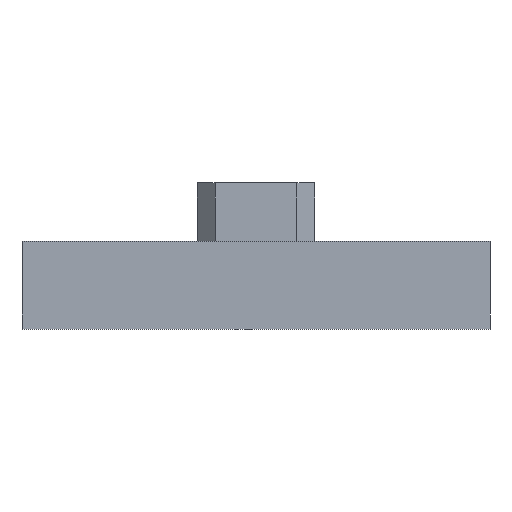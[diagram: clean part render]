
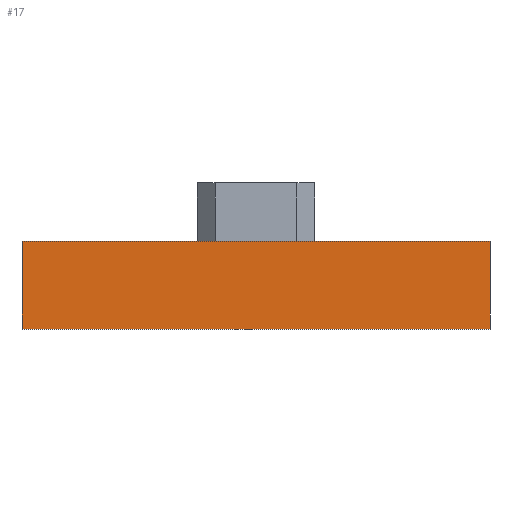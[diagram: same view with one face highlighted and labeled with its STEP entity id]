
A CAD part, left-side view. The second image highlights one B-rep face of the part: STEP entity #17.
In plain terms, the highlighted planar face has unit normal (-1, 0, 0).
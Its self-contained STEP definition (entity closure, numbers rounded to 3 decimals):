
#17 = ADVANCED_FACE('',(#18),#32,.F.);
#18 = FACE_BOUND('',#19,.F.);
#19 = EDGE_LOOP('',(#20,#55,#83,#111));
#20 = ORIENTED_EDGE('',*,*,#21,.F.);
#21 = EDGE_CURVE('',#22,#24,#26,.T.);
#22 = VERTEX_POINT('',#23);
#23 = CARTESIAN_POINT('',(0.,0.,0.));
#24 = VERTEX_POINT('',#25);
#25 = CARTESIAN_POINT('',(0.,0.,3.));
#26 = SURFACE_CURVE('',#27,(#31,#43),.PCURVE_S1.);
#27 = LINE('',#28,#29);
#28 = CARTESIAN_POINT('',(0.,0.,0.));
#29 = VECTOR('',#30,1.);
#30 = DIRECTION('',(0.,0.,1.));
#31 = PCURVE('',#32,#37);
#32 = PLANE('',#33);
#33 = AXIS2_PLACEMENT_3D('',#34,#35,#36);
#34 = CARTESIAN_POINT('',(0.,0.,0.));
#35 = DIRECTION('',(1.,0.,-0.));
#36 = DIRECTION('',(0.,0.,1.));
#37 = DEFINITIONAL_REPRESENTATION('',(#38),#42);
#38 = LINE('',#39,#40);
#39 = CARTESIAN_POINT('',(0.,0.));
#40 = VECTOR('',#41,1.);
#41 = DIRECTION('',(1.,0.));
#42 = ( GEOMETRIC_REPRESENTATION_CONTEXT(2) 
PARAMETRIC_REPRESENTATION_CONTEXT() REPRESENTATION_CONTEXT('2D SPACE',''
  ) );
#43 = PCURVE('',#44,#49);
#44 = PLANE('',#45);
#45 = AXIS2_PLACEMENT_3D('',#46,#47,#48);
#46 = CARTESIAN_POINT('',(0.,0.,0.));
#47 = DIRECTION('',(-0.,1.,0.));
#48 = DIRECTION('',(0.,0.,1.));
#49 = DEFINITIONAL_REPRESENTATION('',(#50),#54);
#50 = LINE('',#51,#52);
#51 = CARTESIAN_POINT('',(0.,0.));
#52 = VECTOR('',#53,1.);
#53 = DIRECTION('',(1.,0.));
#54 = ( GEOMETRIC_REPRESENTATION_CONTEXT(2) 
PARAMETRIC_REPRESENTATION_CONTEXT() REPRESENTATION_CONTEXT('2D SPACE',''
  ) );
#55 = ORIENTED_EDGE('',*,*,#56,.T.);
#56 = EDGE_CURVE('',#22,#57,#59,.T.);
#57 = VERTEX_POINT('',#58);
#58 = CARTESIAN_POINT('',(0.,16.,0.));
#59 = SURFACE_CURVE('',#60,(#64,#71),.PCURVE_S1.);
#60 = LINE('',#61,#62);
#61 = CARTESIAN_POINT('',(0.,0.,0.));
#62 = VECTOR('',#63,1.);
#63 = DIRECTION('',(-0.,1.,0.));
#64 = PCURVE('',#32,#65);
#65 = DEFINITIONAL_REPRESENTATION('',(#66),#70);
#66 = LINE('',#67,#68);
#67 = CARTESIAN_POINT('',(0.,0.));
#68 = VECTOR('',#69,1.);
#69 = DIRECTION('',(0.,-1.));
#70 = ( GEOMETRIC_REPRESENTATION_CONTEXT(2) 
PARAMETRIC_REPRESENTATION_CONTEXT() REPRESENTATION_CONTEXT('2D SPACE',''
  ) );
#71 = PCURVE('',#72,#77);
#72 = PLANE('',#73);
#73 = AXIS2_PLACEMENT_3D('',#74,#75,#76);
#74 = CARTESIAN_POINT('',(0.,0.,0.));
#75 = DIRECTION('',(0.,0.,1.));
#76 = DIRECTION('',(1.,0.,-0.));
#77 = DEFINITIONAL_REPRESENTATION('',(#78),#82);
#78 = LINE('',#79,#80);
#79 = CARTESIAN_POINT('',(0.,0.));
#80 = VECTOR('',#81,1.);
#81 = DIRECTION('',(0.,1.));
#82 = ( GEOMETRIC_REPRESENTATION_CONTEXT(2) 
PARAMETRIC_REPRESENTATION_CONTEXT() REPRESENTATION_CONTEXT('2D SPACE',''
  ) );
#83 = ORIENTED_EDGE('',*,*,#84,.T.);
#84 = EDGE_CURVE('',#57,#85,#87,.T.);
#85 = VERTEX_POINT('',#86);
#86 = CARTESIAN_POINT('',(0.,16.,3.));
#87 = SURFACE_CURVE('',#88,(#92,#99),.PCURVE_S1.);
#88 = LINE('',#89,#90);
#89 = CARTESIAN_POINT('',(0.,16.,0.));
#90 = VECTOR('',#91,1.);
#91 = DIRECTION('',(0.,0.,1.));
#92 = PCURVE('',#32,#93);
#93 = DEFINITIONAL_REPRESENTATION('',(#94),#98);
#94 = LINE('',#95,#96);
#95 = CARTESIAN_POINT('',(0.,-16.));
#96 = VECTOR('',#97,1.);
#97 = DIRECTION('',(1.,0.));
#98 = ( GEOMETRIC_REPRESENTATION_CONTEXT(2) 
PARAMETRIC_REPRESENTATION_CONTEXT() REPRESENTATION_CONTEXT('2D SPACE',''
  ) );
#99 = PCURVE('',#100,#105);
#100 = PLANE('',#101);
#101 = AXIS2_PLACEMENT_3D('',#102,#103,#104);
#102 = CARTESIAN_POINT('',(0.,16.,0.));
#103 = DIRECTION('',(-0.,1.,0.));
#104 = DIRECTION('',(0.,0.,1.));
#105 = DEFINITIONAL_REPRESENTATION('',(#106),#110);
#106 = LINE('',#107,#108);
#107 = CARTESIAN_POINT('',(0.,0.));
#108 = VECTOR('',#109,1.);
#109 = DIRECTION('',(1.,0.));
#110 = ( GEOMETRIC_REPRESENTATION_CONTEXT(2) 
PARAMETRIC_REPRESENTATION_CONTEXT() REPRESENTATION_CONTEXT('2D SPACE',''
  ) );
#111 = ORIENTED_EDGE('',*,*,#112,.F.);
#112 = EDGE_CURVE('',#24,#85,#113,.T.);
#113 = SURFACE_CURVE('',#114,(#118,#125),.PCURVE_S1.);
#114 = LINE('',#115,#116);
#115 = CARTESIAN_POINT('',(0.,0.,3.));
#116 = VECTOR('',#117,1.);
#117 = DIRECTION('',(-0.,1.,0.));
#118 = PCURVE('',#32,#119);
#119 = DEFINITIONAL_REPRESENTATION('',(#120),#124);
#120 = LINE('',#121,#122);
#121 = CARTESIAN_POINT('',(3.,0.));
#122 = VECTOR('',#123,1.);
#123 = DIRECTION('',(0.,-1.));
#124 = ( GEOMETRIC_REPRESENTATION_CONTEXT(2) 
PARAMETRIC_REPRESENTATION_CONTEXT() REPRESENTATION_CONTEXT('2D SPACE',''
  ) );
#125 = PCURVE('',#126,#131);
#126 = PLANE('',#127);
#127 = AXIS2_PLACEMENT_3D('',#128,#129,#130);
#128 = CARTESIAN_POINT('',(0.,0.,3.));
#129 = DIRECTION('',(0.,0.,1.));
#130 = DIRECTION('',(1.,0.,-0.));
#131 = DEFINITIONAL_REPRESENTATION('',(#132),#136);
#132 = LINE('',#133,#134);
#133 = CARTESIAN_POINT('',(0.,0.));
#134 = VECTOR('',#135,1.);
#135 = DIRECTION('',(0.,1.));
#136 = ( GEOMETRIC_REPRESENTATION_CONTEXT(2) 
PARAMETRIC_REPRESENTATION_CONTEXT() REPRESENTATION_CONTEXT('2D SPACE',''
  ) );
